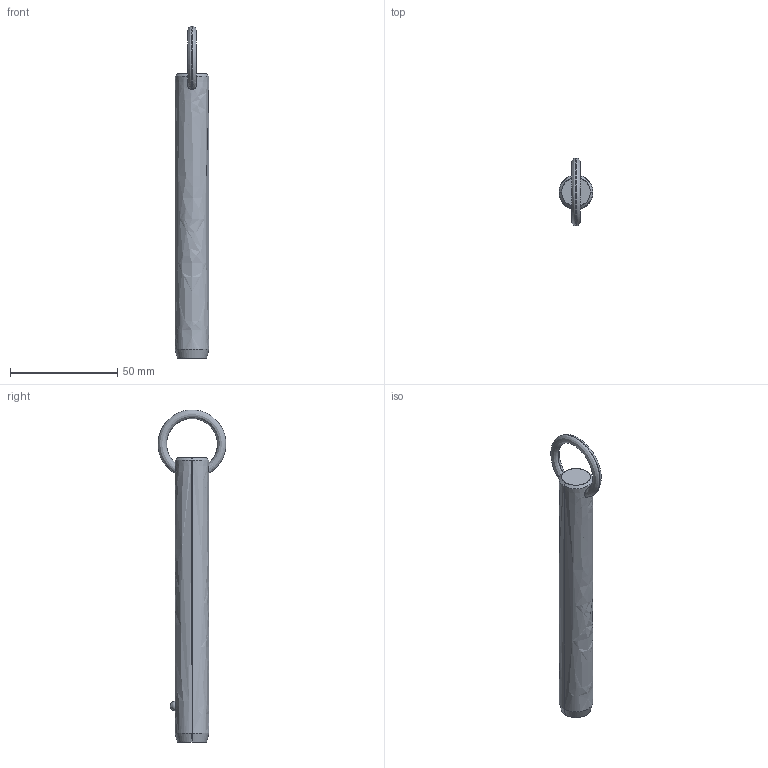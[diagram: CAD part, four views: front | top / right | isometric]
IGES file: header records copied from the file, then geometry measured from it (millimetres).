
Start section: SolidWorks IGES file using analytic representation for surfaces
Global section: file name: C:\Users\liam_\OneDrive\Documents\WORK\Work for WixRoyd\Job Files\J-00019 - Matt Davis CAD Checking\04. CAD Drawings\automotion20190605\P1250.2_v2\P1250.2_v2_20190729_IGES\P1250.062-410.igs; native system: SolidWorks 2017; preprocessor: SolidWorks 2017; author: liam_; date: 190729.233704; units: millimetre
Bounding box: 15.8 x 31.69 x 154.79 mm (x, y, z)
Surface area: 7755.7 mm2 (no closed solid volume)
Topology: 0 solids, 0 shells, 12 faces, 292 edges, 290 vertices
Faces by surface type: revolution 8, bspline 4
